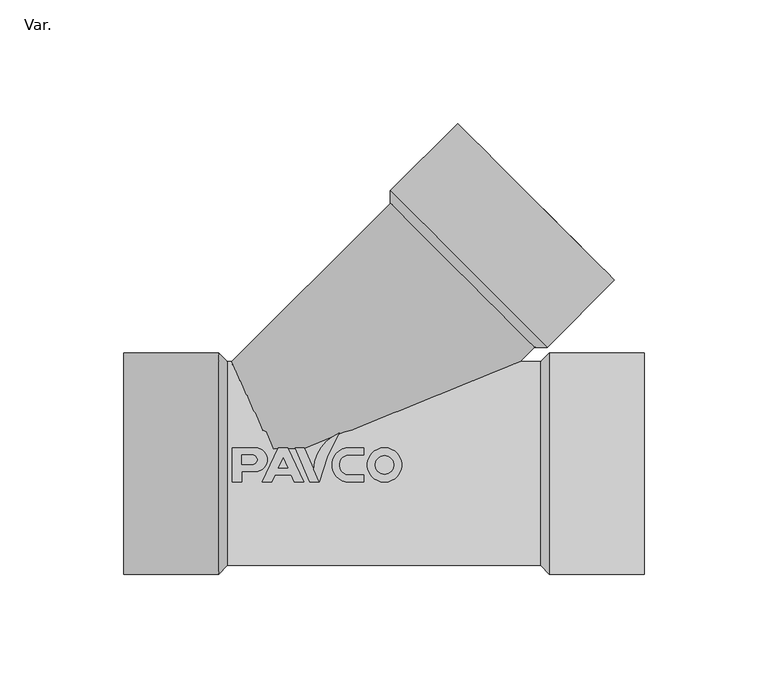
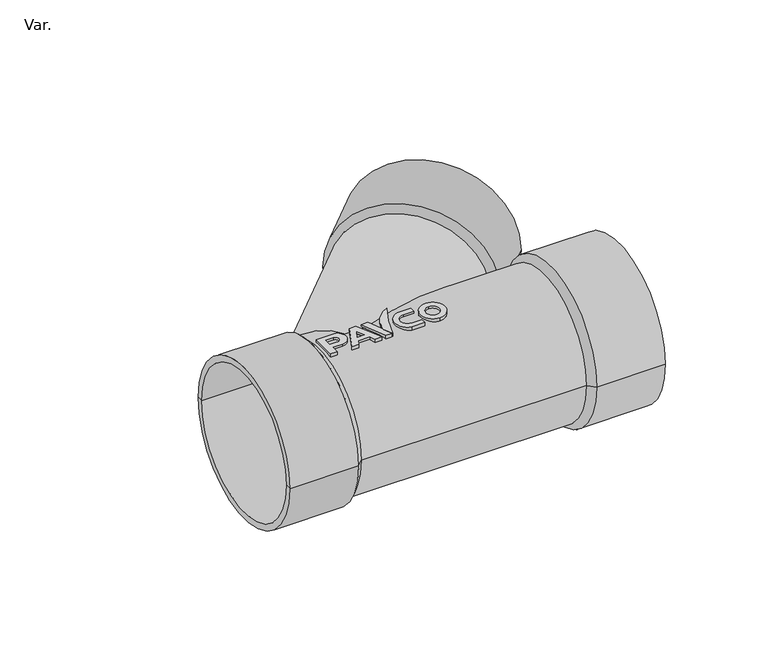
"""IFC4 building model written with IfcOpenShell, lengths in millimetres: pipe fitting geometry, PavcoWavin_UnionesDeTuberia_SanitariaYee : Var.."""

from ifc_helpers import new_model, si_unit, point, frame, frame_2d, origin, origin_2d, place, context, project, spatial, polyline, circle_curve, ellipse_curve, trimmed, segment, composite_curve, outline, extrude, source, transform, mapped, element, save
from ifc_brep_helpers import plane_surface, cylinder_surface, revolved_surface, advanced_brep


def var_dabff7ee(model_context):
    return source(origin(), model_context, "Body", "SolidModel", [
        extrude(outline(polyline([(0.0, 0.0), (6.4847074, -13.9065), (2.6747074, -13.9065), (1.3422333, -11.049), (-5.1522334, -11.049), (-6.4847075, -13.9065), (-10.2947075, -13.9065), (-3.81, 0.0), (0.0, 0.0)]), holes=[polyline([(-3.8375256, -8.2296), (0.0275255, -8.2296), (-1.905, -4.0852857), (-3.8375256, -8.2296)])]), frame((5.5500926, 6.3646922, 39.4233758), z_axis=(0.0, 5.0533497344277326e-05, 0.9999999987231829), x_axis=(1.0, 0.0, 0.0)), (0.0, 0.0, 1.0), 2.6455373),
        extrude(outline(composite_curve([segment(trimmed(circle_curve(frame_2d((-1.9040224, -15.2078292)), 16.9926), [point((5.6769, 0.0))], [point((15.0885758, -15.2001656))], False, "CARTESIAN"), True, "CONTINUOUS"), segment(trimmed(circle_curve(frame_2d((-42.8423338, -57.6167984)), 71.79945), [point((15.0885758, -15.2001656))], [point((0.0, 0.0))], True, "CARTESIAN"), True, "CONTINUOUS"), segment(polyline([(0.0, 0.0), (5.6769, 0.0)]), True, "CONTINUOUS")], self_intersect=False)), frame((18.22605, -7.5418078, 39.4240785), z_axis=(0.0, 5.053349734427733e-05, 0.9999999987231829), x_axis=(-0.3907311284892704, 0.9205048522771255, -4.651632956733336e-05)), (0.0, 0.0, 1.0), 2.6455373),
        extrude(outline(polyline([(0.0, 0.0), (5.902959, -13.9065), (2.092959, -13.9065), (-3.81, 0.0), (0.0, 0.0)])), frame((14.41605, -7.5418078, 39.4240785), z_axis=(0.0, 5.0533497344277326e-05, 0.9999999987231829), x_axis=(-1.0, 0.0, 0.0)), (0.0, 0.0, 1.0), 2.6455373),
        extrude(outline(composite_curve([segment(polyline([(1.6783397, -14.1061871), (-5.7248629, -14.1061871), (-5.7248629, -11.2486871), (0.1996871, -11.2486871)]), True, "CONTINUOUS"), segment(trimmed(circle_curve(frame_2d((0.1996871, -7.1529371)), 4.09575), [point((0.1996871, -11.2486871))], [point((0.1996871, -3.0571871))], True, "CARTESIAN"), True, "CONTINUOUS"), segment(polyline([(0.1996871, -3.0571871), (-5.7248629, -3.0571871), (-5.7248629, -0.1996871), (1.6783397, -0.1996871)]), True, "CONTINUOUS"), segment(trimmed(circle_curve(frame_2d((0.0, -7.1529371)), 7.1529371), [point((1.6783397, -0.1996871))], [point((1.6783397, -14.1061871))], False, "CARTESIAN"), True, "CONTINUOUS")], self_intersect=False)), frame((30.6177371, -7.7414949, 39.4240886), z_axis=(0.0, 5.0533497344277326e-05, 0.9999999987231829), x_axis=(-1.0, 0.0, 0.0)), (0.0, 0.0, 1.0), 2.6455373),
        extrude(outline(composite_curve([segment(trimmed(circle_curve(frame_2d((0.0, -6.95325)), 6.95325), [point((0.0, -13.9065))], [point((0.0, 0.0))], False, "CARTESIAN"), True, "CONTINUOUS"), segment(trimmed(circle_curve(frame_2d((0.0, -6.95325)), 6.95325), [point((0.0, 0.0))], [point((0.0, -13.9065))], False, "CARTESIAN"), True, "CONTINUOUS")], self_intersect=False), holes=[composite_curve([segment(trimmed(circle_curve(frame_2d((0.0, -6.95325)), 3.77825), [point((0.0, -10.7315))], [point((0.0, -3.175))], True, "CARTESIAN"), True, "CONTINUOUS"), segment(trimmed(circle_curve(frame_2d((0.0, -6.95325)), 3.77825), [point((0.0, -3.175))], [point((0.0, -10.7315))], True, "CARTESIAN"), True, "CONTINUOUS")], self_intersect=False)]), frame((44.70555, -7.5418078, 39.4240785), z_axis=(0.0, 5.0533497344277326e-05, 0.9999999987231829), x_axis=(-1.0, 0.0, 0.0)), (0.0, 0.0, 1.0), 2.6455373),
        extrude(outline(composite_curve([segment(polyline([(13.9065, 0.0), (13.9065, -9.2973539)]), True, "CONTINUOUS"), segment(trimmed(circle_curve(frame_2d((9.077325, -9.2973539)), 4.829175), [point((13.9065, -9.2973539))], [point((4.24815, -9.2973539))], False, "CARTESIAN"), True, "CONTINUOUS"), segment(polyline([(4.24815, -9.2973539), (4.24815, -3.81), (0.0, -3.81), (0.0, 0.0), (13.9065, 0.0)]), True, "CONTINUOUS")], self_intersect=False), holes=[composite_curve([segment(polyline([(7.10565, -3.81), (7.10565, -8.0391)]), True, "CONTINUOUS"), segment(trimmed(circle_curve(frame_2d((9.077325, -8.0391)), 1.971675), [point((7.10565, -8.0391))], [point((11.049, -8.0391))], True, "CARTESIAN"), True, "CONTINUOUS"), segment(polyline([(11.049, -8.0391), (11.049, -3.81), (7.10565, -3.81)]), True, "CONTINUOUS")], self_intersect=False)]), frame((-16.845, -7.5418078, 39.4240785), z_axis=(0.0, 5.0533497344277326e-05, 0.9999999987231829), x_axis=(0.0, 0.9999999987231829, -5.0533497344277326e-05)), (0.0, 0.0, 1.0), 2.6455373),
        extrude(outline(polyline([(0.0, 0.0), (3.81, 0.0), (10.2947075, -13.9065), (6.4847075, -13.9065), (5.1522334, -11.049), (-1.3422333, -11.049), (-2.6747074, -13.9065), (-6.4847074, -13.9065), (0.0, 0.0)]), holes=[polyline([(3.8375256, -8.2296), (1.905, -4.0852857), (-0.0275255, -8.2296), (3.8375256, -8.2296)])]), frame((5.5500926, -6.3719611, -42.0678329), z_axis=(0.0, 0.00022014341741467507, 0.9999999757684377), x_axis=(-1.0, 0.0, 0.0)), (0.0, 0.0, 1.0), 2.6455373),
        extrude(outline(composite_curve([segment(polyline([(-5.6769, 0.0), (0.0, 0.0)]), True, "CONTINUOUS"), segment(trimmed(circle_curve(frame_2d((42.8423338, -57.6167984)), 71.79945), [point((0.0, 0.0))], [point((-15.0885758, -15.2001657))], True, "CARTESIAN"), True, "CONTINUOUS"), segment(trimmed(circle_curve(frame_2d((1.9040224, -15.2078292)), 16.9926), [point((-15.0885758, -15.2001657))], [point((-5.6769, 0.0))], False, "CARTESIAN"), True, "CONTINUOUS")], self_intersect=False)), frame((18.22605, 7.5345386, -42.0708943), z_axis=(0.0, 0.0002201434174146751, 0.9999999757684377), x_axis=(0.3907311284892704, 0.9205048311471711, -0.0002026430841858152)), (0.0, 0.0, 1.0), 2.6455373),
        extrude(outline(polyline([(0.0, 0.0), (3.81, 0.0), (-2.092959, -13.9065), (-5.902959, -13.9065), (0.0, 0.0)])), frame((14.41605, 7.5345386, -42.0708943), z_axis=(0.0, 0.00022014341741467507, 0.9999999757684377), x_axis=(1.0, 0.0, 0.0)), (0.0, 0.0, 1.0), 2.6455373),
        extrude(outline(composite_curve([segment(trimmed(circle_curve(frame_2d((0.0, -7.1529372)), 7.1529371), [point((-1.6783397, -14.1061871))], [point((-1.6783397, -0.1996871))], False, "CARTESIAN"), True, "CONTINUOUS"), segment(polyline([(-1.6783397, -0.1996871), (5.7248629, -0.1996871), (5.7248629, -3.0571872), (-0.1996871, -3.0571872)]), True, "CONTINUOUS"), segment(trimmed(circle_curve(frame_2d((-0.1996871, -7.1529372)), 4.09575), [point((-0.1996871, -3.0571872))], [point((-0.1996871, -11.2486872))], True, "CARTESIAN"), True, "CONTINUOUS"), segment(polyline([(-0.1996871, -11.2486872), (5.7248629, -11.2486872), (5.7248629, -14.1061871), (-1.6783397, -14.1061871)]), True, "CONTINUOUS")], self_intersect=False)), frame((30.6177371, 7.7342257, -42.0709382), z_axis=(0.0, 0.00022014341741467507, 0.9999999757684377), x_axis=(1.0, 0.0, 0.0)), (0.0, 0.0, 1.0), 2.6455373),
        extrude(outline(composite_curve([segment(trimmed(circle_curve(frame_2d((0.0, -6.9532501)), 6.95325), [point((0.0, -13.9065))], [point((0.0, 0.0))], False, "CARTESIAN"), True, "CONTINUOUS"), segment(trimmed(circle_curve(frame_2d((0.0, -6.9532501)), 6.95325), [point((0.0, 0.0))], [point((0.0, -13.9065))], False, "CARTESIAN"), True, "CONTINUOUS")], self_intersect=False), holes=[composite_curve([segment(trimmed(circle_curve(frame_2d((0.0, -6.9532501)), 3.77825), [point((0.0, -10.7315001))], [point((0.0, -3.1750001))], True, "CARTESIAN"), True, "CONTINUOUS"), segment(trimmed(circle_curve(frame_2d((0.0, -6.9532501)), 3.77825), [point((0.0, -3.1750001))], [point((0.0, -10.7315001))], True, "CARTESIAN"), True, "CONTINUOUS")], self_intersect=False)]), frame((44.70555, 7.5345386, -42.0708943), z_axis=(0.0, 0.00022014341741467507, 0.9999999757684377), x_axis=(1.0, 0.0, 0.0)), (0.0, 0.0, 1.0), 2.6455373),
        extrude(outline(composite_curve([segment(polyline([(-13.9065, 0.0), (0.0, 0.0), (0.0, -3.81), (-4.24815, -3.81), (-4.24815, -9.2973539)]), True, "CONTINUOUS"), segment(trimmed(circle_curve(frame_2d((-9.077325, -9.2973539)), 4.829175), [point((-4.24815, -9.2973539))], [point((-13.9065, -9.2973539))], False, "CARTESIAN"), True, "CONTINUOUS"), segment(polyline([(-13.9065, -9.2973539), (-13.9065, 0.0)]), True, "CONTINUOUS")], self_intersect=False), holes=[composite_curve([segment(polyline([(-7.1056501, -3.81), (-11.0490001, -3.81), (-11.0490001, -8.0391)]), True, "CONTINUOUS"), segment(trimmed(circle_curve(frame_2d((-9.077325, -8.0391)), 1.971675), [point((-11.0490001, -8.0391))], [point((-7.1056501, -8.0391))], True, "CARTESIAN"), True, "CONTINUOUS"), segment(polyline([(-7.1056501, -8.0391), (-7.1056501, -3.81)]), True, "CONTINUOUS")], self_intersect=False)]), frame((-16.845, 7.5345386, -42.0708943), z_axis=(0.0, 0.00022014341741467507, 0.9999999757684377), x_axis=(0.0, 0.9999999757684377, -0.00022014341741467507)), (0.0, 0.0, 1.0), 2.6455373),
        advanced_brep(
        [(47.0720984, 105.4437632, 0.0), (105.4437632, 47.0720984, 0.0), (135.1811389, 76.8094741, 0.0), (76.8094741, 135.1811389, 0.0), (47.0720984, 110.4712924, 0.0), (110.4712924, 47.0720984, 0.0), (74.2957095, 137.6949035, 0.0), (137.6949035, 74.2957095, 0.0)],
        [
            (0, 1, circle_curve(frame((76.2579308, 76.2579308, 0.0), z_axis=(-0.7071067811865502, -0.7071067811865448, 0.0), x_axis=(0.7071067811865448, -0.7071067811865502, 0.0)), 41.275)),
            (1, 2),
            (2, 3, circle_curve(frame((105.9953065, 105.9953065, 0.0), z_axis=(0.7071067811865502, 0.7071067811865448, 0.0), x_axis=(0.7071067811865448, -0.7071067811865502, 0.0)), 41.275)),
            (3, 0),
            (1, 0, circle_curve(frame((76.2579308, 76.2579308, 0.0), z_axis=(-0.7071067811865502, -0.7071067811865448, 0.0), x_axis=(0.7071067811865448, -0.7071067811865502, 0.0)), 41.275)),
            (3, 2, circle_curve(frame((105.9953065, 105.9953065, 0.0), z_axis=(0.7071067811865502, 0.7071067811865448, 0.0), x_axis=(0.7071067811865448, -0.7071067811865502, 0.0)), 41.275)),
            (4, 5, circle_curve(frame((78.7716954, 78.7716954, 0.0), z_axis=(-0.7071067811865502, -0.7071067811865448, 0.0), x_axis=(0.7071067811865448, -0.7071067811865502, 0.0)), 44.83)),
            (5, 1),
            (0, 4),
            (5, 4, circle_curve(frame((78.7716954, 78.7716954, 0.0), z_axis=(-0.7071067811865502, -0.7071067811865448, 0.0), x_axis=(0.7071067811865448, -0.7071067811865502, 0.0)), 44.83)),
            (6, 7, circle_curve(frame((105.9953065, 105.9953065, 0.0), z_axis=(-0.7071067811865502, -0.7071067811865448, 0.0), x_axis=(0.7071067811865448, -0.7071067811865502, 0.0)), 44.83)),
            (7, 5),
            (4, 6),
            (7, 6, circle_curve(frame((105.9953065, 105.9953065, 0.0), z_axis=(-0.7071067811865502, -0.7071067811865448, 0.0), x_axis=(0.7071067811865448, -0.7071067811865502, 0.0)), 44.83)),
            (2, 7),
            (6, 3),
        ],
        [
            revolved_surface(polyline([(135.18113889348, 76.8094741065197, 0.0), (105.44376319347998, 47.07209840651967, 0.0)]), (-1335.1272044, -1335.1272044, 0.0), (0.7071067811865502, 0.7071067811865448, 0.0)),
            revolved_surface(polyline([(105.4437632, 47.0720984, 0.0), (110.4712924, 47.0720984, 0.0)]), (-1335.1272044, -1335.1272044, 0.0), (0.7071067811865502, 0.7071067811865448, 0.0)),
            cylinder_surface(frame((-1335.1272044, -1335.1272044, 0.0), z_axis=(0.7071067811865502, 0.7071067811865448, 0.0), x_axis=(0.7071067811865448, -0.7071067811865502, 0.0)), 44.83),
            plane_surface(frame((105.9953065, 105.9953065, 0.0), z_axis=(0.7071067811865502, 0.7071067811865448, 0.0), x_axis=(0.7071067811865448, -0.7071067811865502, 0.0))),
        ],
        [
            (0, [[1, 2, 3, 4]]),
            (0, [[5, -4, 6, -2]]),
            (1, [[7, 8, -1, 9]]),
            (1, [[10, -9, -5, -8]]),
            (2, [[11, 12, -7, 13]]),
            (2, [[14, -13, -10, -12]]),
            (3, [[-3, 15, -11, 16]]),
            (3, [[-6, -16, -14, -15]]),
        ],
    ),
        advanced_brep(
        [(107.845, 41.275, 0.0), (107.845, -41.275, 0.0), (149.9, -41.275, 0.0), (149.9, 41.275, 0.0), (111.4, 44.83, 0.0), (111.4, -44.83, 0.0), (149.9, 44.83, 0.0), (149.9, -44.83, 0.0)],
        [
            (0, 1, circle_curve(frame((107.845, 0.0, 0.0), z_axis=(-1.0, 0.0, 0.0), x_axis=(0.0, -1.0, 0.0)), 41.275)),
            (1, 2),
            (2, 3, circle_curve(frame((149.9, 0.0, 0.0), z_axis=(1.0, 0.0, 0.0), x_axis=(0.0, -1.0, 0.0)), 41.275)),
            (3, 0),
            (1, 0, circle_curve(frame((107.845, 0.0, 0.0), z_axis=(-1.0, 0.0, 0.0), x_axis=(0.0, -1.0, 0.0)), 41.275)),
            (3, 2, circle_curve(frame((149.9, 0.0, 0.0), z_axis=(1.0, 0.0, 0.0), x_axis=(0.0, -1.0, 0.0)), 41.275)),
            (4, 5, circle_curve(frame((111.4, 0.0, 0.0), z_axis=(-1.0, 0.0, 0.0), x_axis=(0.0, -1.0, 0.0)), 44.83)),
            (5, 1),
            (0, 4),
            (5, 4, circle_curve(frame((111.4, 0.0, 0.0), z_axis=(-1.0, 0.0, 0.0), x_axis=(0.0, -1.0, 0.0)), 44.83)),
            (6, 7, circle_curve(frame((149.9, 0.0, 0.0), z_axis=(-1.0, 0.0, 0.0), x_axis=(0.0, -1.0, 0.0)), 44.83)),
            (7, 5),
            (4, 6),
            (7, 6, circle_curve(frame((149.9, 0.0, 0.0), z_axis=(-1.0, 0.0, 0.0), x_axis=(0.0, -1.0, 0.0)), 44.83)),
            (2, 7),
            (6, 3),
        ],
        [
            revolved_surface(polyline([(149.9000000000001, -41.275, 0.0), (107.84500000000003, -41.275, 0.0)]), (-1888.155, 0.0, 0.0), (1.0, 0.0, 0.0)),
            revolved_surface(polyline([(107.845, -41.275, 0.0), (111.4, -44.83, 0.0)]), (-1888.155, 0.0, 0.0), (1.0, 0.0, 0.0)),
            cylinder_surface(frame((-1888.155, 0.0, 0.0), z_axis=(1.0, 0.0, 0.0), x_axis=(0.0, -1.0, 0.0)), 44.83),
            plane_surface(frame((149.9, 0.0, 0.0), z_axis=(1.0, 0.0, 0.0), x_axis=(0.0, -1.0, 0.0))),
        ],
        [
            (0, [[1, 2, 3, 4]]),
            (0, [[5, -4, 6, -2]]),
            (1, [[7, 8, -1, 9]]),
            (1, [[10, -9, -5, -8]]),
            (2, [[11, 12, -7, 13]]),
            (2, [[14, -13, -10, -12]]),
            (3, [[-3, 15, -11, 16]]),
            (3, [[-6, -16, -14, -15]]),
        ],
    ),
        advanced_brep(
        [(-18.845, -41.275, 0.0), (-18.845, 41.275, 0.0), (-60.9, 41.275, 0.0), (-60.9, -41.275, 0.0), (-22.4, -44.83, 0.0), (-22.4, 44.83, 0.0), (-60.9, -44.83, 0.0), (-60.9, 44.83, 0.0)],
        [
            (0, 1, circle_curve(frame((-18.845, 0.0, 0.0), z_axis=(1.0, 0.0, 0.0), x_axis=(0.0, 1.0, 0.0)), 41.275)),
            (1, 2),
            (2, 3, circle_curve(frame((-60.9, 0.0, 0.0), z_axis=(-1.0, 0.0, 0.0), x_axis=(0.0, 1.0, 0.0)), 41.275)),
            (3, 0),
            (1, 0, circle_curve(frame((-18.845, 0.0, 0.0), z_axis=(1.0, 0.0, 0.0), x_axis=(0.0, 1.0, 0.0)), 41.275)),
            (3, 2, circle_curve(frame((-60.9, 0.0, 0.0), z_axis=(-1.0, 0.0, 0.0), x_axis=(0.0, 1.0, 0.0)), 41.275)),
            (4, 5, circle_curve(frame((-22.4, 0.0, 0.0), z_axis=(1.0, 0.0, 0.0), x_axis=(0.0, 1.0, 0.0)), 44.83)),
            (5, 1),
            (0, 4),
            (5, 4, circle_curve(frame((-22.4, 0.0, 0.0), z_axis=(1.0, 0.0, 0.0), x_axis=(0.0, 1.0, 0.0)), 44.83)),
            (6, 7, circle_curve(frame((-60.9, 0.0, 0.0), z_axis=(1.0, 0.0, 0.0), x_axis=(0.0, 1.0, 0.0)), 44.83)),
            (7, 5),
            (4, 6),
            (7, 6, circle_curve(frame((-60.9, 0.0, 0.0), z_axis=(1.0, 0.0, 0.0), x_axis=(0.0, 1.0, 0.0)), 44.83)),
            (2, 7),
            (6, 3),
        ],
        [
            revolved_surface(polyline([(-60.90000000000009, 41.275, 0.0), (-18.845000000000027, 41.275, 0.0)]), (1977.155, 0.0, 0.0), (-1.0, 0.0, 0.0)),
            revolved_surface(polyline([(-18.845, 41.275, 0.0), (-22.4, 44.83, 0.0)]), (1977.155, 0.0, 0.0), (-1.0, 0.0, 0.0)),
            cylinder_surface(frame((1977.155, 0.0, 0.0), z_axis=(-1.0, 0.0, 0.0), x_axis=(0.0, 1.0, 0.0)), 44.83),
            plane_surface(frame((-60.9, 0.0, 0.0), z_axis=(-1.0, 0.0, 0.0), x_axis=(0.0, 1.0, 0.0))),
        ],
        [
            (0, [[1, 2, 3, 4]]),
            (0, [[5, -4, 6, -2]]),
            (1, [[7, 8, -1, 9]]),
            (1, [[10, -9, -5, -8]]),
            (2, [[11, 12, -7, 13]]),
            (2, [[14, -13, -10, -12]]),
            (3, [[-3, 15, -11, 16]]),
            (3, [[-6, -16, -14, -15]]),
        ],
    ),
        extrude(outline(composite_curve([segment(trimmed(circle_curve(origin_2d(), 41.275), [point((41.275, 0.0))], [point((-41.275, 0.0))], False, "CARTESIAN"), True, "CONTINUOUS"), segment(trimmed(circle_curve(origin_2d(), 41.275), [point((-41.275, 0.0))], [point((41.275, 0.0))], False, "CARTESIAN"), True, "CONTINUOUS")], self_intersect=False)), frame((-22.4, 0.0, 0.0), z_axis=(1.0, 0.0, 0.0), x_axis=(0.0, 1.0, 0.0)), (0.0, 0.0, 1.0), 133.8),
        advanced_brep(
        [(107.9575278, 49.585863, 0.0), (49.585863, 107.9575278, 0.0), (78.7716954, 78.7716954, 0.0), (29.1858324, -29.1858324, 0.0), (-22.4, 22.4, -26.4595092), (-22.4, 35.9716648, 0.0), (-22.4, 22.4, 26.4595092), (0.0, 0.0, 0.0), (-22.4, 22.4, 0.0)],
        [
            (0, 1, circle_curve(frame((78.7716954, 78.7716954, 0.0), z_axis=(0.7071067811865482, 0.7071067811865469, 0.0), x_axis=(-0.7071067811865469, 0.7071067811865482, 0.0)), 41.275)),
            (1, 2),
            (2, 0),
            (1, 0, circle_curve(frame((78.7716954, 78.7716954, 0.0), z_axis=(0.7071067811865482, 0.7071067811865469, 0.0), x_axis=(-0.7071067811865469, 0.7071067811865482, 0.0)), 41.275)),
            (0, 3),
            (3, 4, circle_curve(frame((0.0, 0.0, 0.0), z_axis=(0.7071067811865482, 0.7071067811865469, 0.0), x_axis=(-0.7071067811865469, 0.7071067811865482, 0.0)), 41.275)),
            (4, 5, ellipse_curve(frame((-22.4, -22.4, 0.0), z_axis=(1.0, 0.0, 0.0), x_axis=(0.0, -1.0, 0.0)), 58.3716648, 41.275)),
            (5, 1),
            (5, 6, ellipse_curve(frame((-22.4, -22.4, 0.0), z_axis=(1.0, 0.0, 0.0), x_axis=(0.0, -1.0, 0.0)), 58.3716648, 41.275)),
            (6, 3, circle_curve(frame((0.0, 0.0, 0.0), z_axis=(0.7071067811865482, 0.7071067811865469, 0.0), x_axis=(-0.7071067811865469, 0.7071067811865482, 0.0)), 41.275)),
            (3, 7),
            (7, 8),
            (8, 4),
            (6, 8),
        ],
        [
            plane_surface(frame((78.7716954, 78.7716954, 0.0), z_axis=(0.7071067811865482, 0.7071067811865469, 0.0), x_axis=(-0.7071067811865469, 0.7071067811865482, 0.0))),
            cylinder_surface(frame((0.0, 0.0, 0.0), z_axis=(-0.7071067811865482, -0.7071067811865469, 0.0), x_axis=(-0.7071067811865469, 0.7071067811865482, 0.0)), 41.275),
            plane_surface(frame((0.0, 0.0, 0.0), z_axis=(-0.7071067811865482, -0.7071067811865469, 0.0), x_axis=(-0.7071067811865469, 0.7071067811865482, 0.0))),
            plane_surface(frame((-22.4, 44.83, 0.0), z_axis=(-1.0, 0.0, 0.0), x_axis=(0.0, 0.0, 1.0))),
        ],
        [
            (0, [[1, 2, 3]]),
            (0, [[-2, 4, -3]]),
            (1, [[-1, 5, 6, 7, 8]]),
            (1, [[-4, -8, 9, 10, -5]]),
            (2, [[11, 12, 13, -6]]),
            (2, [[-11, -10, 14, -12]]),
            (3, [[-7, -13, -14, -9]]),
        ],
    ),
    ])


if __name__ == "__main__":
    model = new_model("IFC4")
    model_context = context("Model", 3, world=origin())
    ifc_project = project(units=[si_unit("LENGTHUNIT", "METRE", prefix="MILLI")], contexts=[model_context])
    site = spatial("IfcSite", under=ifc_project)
    building = spatial("IfcBuilding", under=site)
    placement = place(None, origin())
    var_shape = var_dabff7ee(model_context)
    element("IfcPipeFitting", 1, ObjectType="PavcoWavin_UnionesDeTuberia_SanitariaYee : Var.", at=placement, inside=building, context=model_context, shape_type="MappedRepresentation", body=[
        mapped(var_shape, transform((0.0, 0.0, 0.0), x_axis=(1.0, 0.0, 0.0), y_axis=(0.0, 1.0, 0.0), z_axis=(0.0, 0.0, 1.0))),
    ])
    save(model, "model.ifc")
